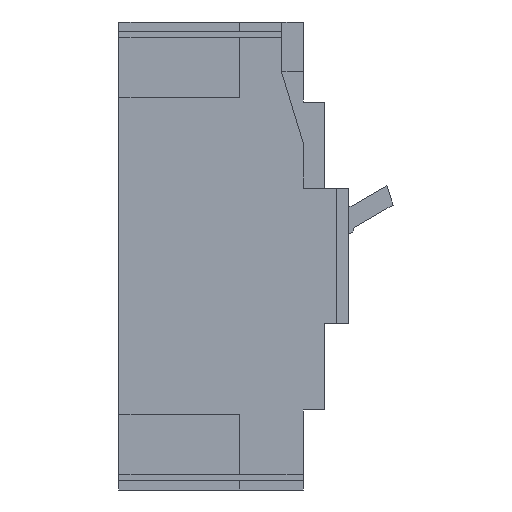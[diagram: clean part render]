
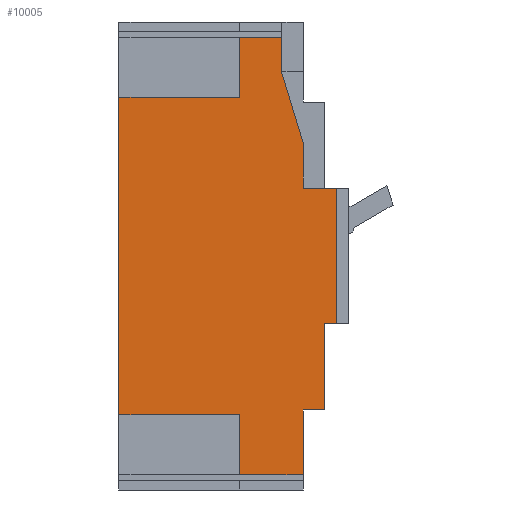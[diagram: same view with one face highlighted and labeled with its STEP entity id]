
A CAD part, left-side view. The second image highlights one B-rep face of the part: STEP entity #10005.
In plain terms, the highlighted planar face has unit normal (-1, 0, 0).
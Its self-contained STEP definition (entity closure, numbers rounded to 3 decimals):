
#2=DIRECTION('',(0.,-1.,0.));
#3=VECTOR('',#2,40.);
#4=CARTESIAN_POINT('',(-60.,30.5,-52.5));
#5=LINE('',#4,#3);
#6=DIRECTION('',(0.,0.,1.));
#7=VECTOR('',#6,105.);
#8=CARTESIAN_POINT('',(-60.,30.5,-52.5));
#9=LINE('',#8,#7);
#10=DIRECTION('',(0.,-1.,0.));
#11=VECTOR('',#10,40.);
#12=CARTESIAN_POINT('',(-60.,30.5,52.5));
#13=LINE('',#12,#11);
#14=DIRECTION('',(0.,0.,-1.));
#15=VECTOR('',#14,20.);
#16=CARTESIAN_POINT('',(-60.,-9.5,72.5));
#17=LINE('',#16,#15);
#18=DIRECTION('',(0.,-1.,0.));
#19=VECTOR('',#18,14.);
#20=CARTESIAN_POINT('',(-60.,-9.5,72.5));
#21=LINE('',#20,#19);
#22=DIRECTION('',(0.,0.,-1.));
#23=VECTOR('',#22,12.);
#24=CARTESIAN_POINT('',(-60.,-23.5,72.5));
#25=LINE('',#24,#23);
#26=DIRECTION('',(0.,0.291,0.957));
#27=VECTOR('',#26,24.042);
#28=CARTESIAN_POINT('',(-60.,-30.5,37.5));
#29=LINE('',#28,#27);
#30=DIRECTION('',(0.,0.,1.));
#31=VECTOR('',#30,15.);
#32=CARTESIAN_POINT('',(-60.,-30.5,22.5));
#33=LINE('',#32,#31);
#34=DIRECTION('',(0.,0.,-1.));
#35=VECTOR('',#34,45.);
#36=CARTESIAN_POINT('',(-60.,-41.5,22.5));
#37=LINE('',#36,#35);
#38=DIRECTION('',(0.,1.,0.));
#39=VECTOR('',#38,4.);
#40=CARTESIAN_POINT('',(-60.,-41.5,-22.5));
#41=LINE('',#40,#39);
#42=DIRECTION('',(0.,0.,-1.));
#43=VECTOR('',#42,28.5);
#44=CARTESIAN_POINT('',(-60.,-37.5,-22.5));
#45=LINE('',#44,#43);
#46=DIRECTION('',(0.,1.,0.));
#47=VECTOR('',#46,7.);
#48=CARTESIAN_POINT('',(-60.,-37.5,-51.));
#49=LINE('',#48,#47);
#50=DIRECTION('',(0.,0.,-1.));
#51=VECTOR('',#50,21.5);
#52=CARTESIAN_POINT('',(-60.,-30.5,-51.));
#53=LINE('',#52,#51);
#54=DIRECTION('',(0.,-1.,0.));
#55=VECTOR('',#54,21.);
#56=CARTESIAN_POINT('',(-60.,-9.5,-72.5));
#57=LINE('',#56,#55);
#58=DIRECTION('',(0.,0.,1.));
#59=VECTOR('',#58,20.);
#60=CARTESIAN_POINT('',(-60.,-9.5,-72.5));
#61=LINE('',#60,#59);
#925=DIRECTION('',(0.,1.,0.));
#926=VECTOR('',#925,11.);
#927=CARTESIAN_POINT('',(-60.,-41.5,22.5));
#928=LINE('',#927,#926);
#7506=CARTESIAN_POINT('',(-60.,-37.5,-22.5));
#7507=CARTESIAN_POINT('',(-60.,-37.5,-51.));
#7508=VERTEX_POINT('',#7506);
#7509=VERTEX_POINT('',#7507);
#7510=CARTESIAN_POINT('',(-60.,-30.5,-51.));
#7511=VERTEX_POINT('',#7510);
#8368=CARTESIAN_POINT('',(-60.,-30.5,-72.5));
#8369=VERTEX_POINT('',#8368);
#8424=CARTESIAN_POINT('',(-60.,-41.5,22.5));
#8425=CARTESIAN_POINT('',(-60.,-41.5,-22.5));
#8426=VERTEX_POINT('',#8424);
#8427=VERTEX_POINT('',#8425);
#8786=CARTESIAN_POINT('',(-60.,-30.5,22.5));
#8787=VERTEX_POINT('',#8786);
#8788=CARTESIAN_POINT('',(-60.,-30.5,37.5));
#8789=VERTEX_POINT('',#8788);
#8790=CARTESIAN_POINT('',(-60.,-23.5,60.5));
#8791=VERTEX_POINT('',#8790);
#8796=CARTESIAN_POINT('',(-60.,-23.5,72.5));
#8797=VERTEX_POINT('',#8796);
#9198=CARTESIAN_POINT('',(-60.,-9.5,-52.5));
#9199=VERTEX_POINT('',#9198);
#9200=CARTESIAN_POINT('',(-60.,-9.5,52.5));
#9201=VERTEX_POINT('',#9200);
#9202=CARTESIAN_POINT('',(-60.,30.5,-52.5));
#9203=VERTEX_POINT('',#9202);
#9208=CARTESIAN_POINT('',(-60.,-9.5,-72.5));
#9209=VERTEX_POINT('',#9208);
#9214=CARTESIAN_POINT('',(-60.,-9.5,72.5));
#9215=VERTEX_POINT('',#9214);
#9216=CARTESIAN_POINT('',(-60.,30.5,52.5));
#9217=VERTEX_POINT('',#9216);
#9966=CARTESIAN_POINT('',(-60.,0.,0.));
#9967=DIRECTION('',(1.,0.,0.));
#9968=DIRECTION('',(0.,-1.,0.));
#9969=AXIS2_PLACEMENT_3D('',#9966,#9967,#9968);
#9970=PLANE('',#9969);
#9972=ORIENTED_EDGE('',*,*,#9971,.F.);
#9974=ORIENTED_EDGE('',*,*,#9973,.T.);
#9976=ORIENTED_EDGE('',*,*,#9975,.T.);
#9978=ORIENTED_EDGE('',*,*,#9977,.F.);
#9980=ORIENTED_EDGE('',*,*,#9979,.T.);
#9982=ORIENTED_EDGE('',*,*,#9981,.T.);
#9984=ORIENTED_EDGE('',*,*,#9983,.F.);
#9986=ORIENTED_EDGE('',*,*,#9985,.F.);
#9988=ORIENTED_EDGE('',*,*,#9987,.F.);
#9990=ORIENTED_EDGE('',*,*,#9989,.T.);
#9992=ORIENTED_EDGE('',*,*,#9991,.T.);
#9994=ORIENTED_EDGE('',*,*,#9993,.T.);
#9996=ORIENTED_EDGE('',*,*,#9995,.T.);
#9998=ORIENTED_EDGE('',*,*,#9997,.T.);
#10000=ORIENTED_EDGE('',*,*,#9999,.F.);
#10002=ORIENTED_EDGE('',*,*,#10001,.T.);
#10003=EDGE_LOOP('',(#9972,#9974,#9976,#9978,#9980,#9982,#9984,#9986,#9988,
#9990,#9992,#9994,#9996,#9998,#10000,#10002));
#10004=FACE_OUTER_BOUND('',#10003,.F.);
#9971=EDGE_CURVE('',#9203,#9199,#5,.T.);
#9973=EDGE_CURVE('',#9203,#9217,#9,.T.);
#9975=EDGE_CURVE('',#9217,#9201,#13,.T.);
#9977=EDGE_CURVE('',#9215,#9201,#17,.T.);
#9979=EDGE_CURVE('',#9215,#8797,#21,.T.);
#9981=EDGE_CURVE('',#8797,#8791,#25,.T.);
#9983=EDGE_CURVE('',#8789,#8791,#29,.T.);
#9985=EDGE_CURVE('',#8787,#8789,#33,.T.);
#9987=EDGE_CURVE('',#8426,#8787,#928,.T.);
#9989=EDGE_CURVE('',#8426,#8427,#37,.T.);
#9991=EDGE_CURVE('',#8427,#7508,#41,.T.);
#9993=EDGE_CURVE('',#7508,#7509,#45,.T.);
#9995=EDGE_CURVE('',#7509,#7511,#49,.T.);
#9997=EDGE_CURVE('',#7511,#8369,#53,.T.);
#9999=EDGE_CURVE('',#9209,#8369,#57,.T.);
#10001=EDGE_CURVE('',#9209,#9199,#61,.T.);
#10005=ADVANCED_FACE('',(#10004),#9970,.F.);
